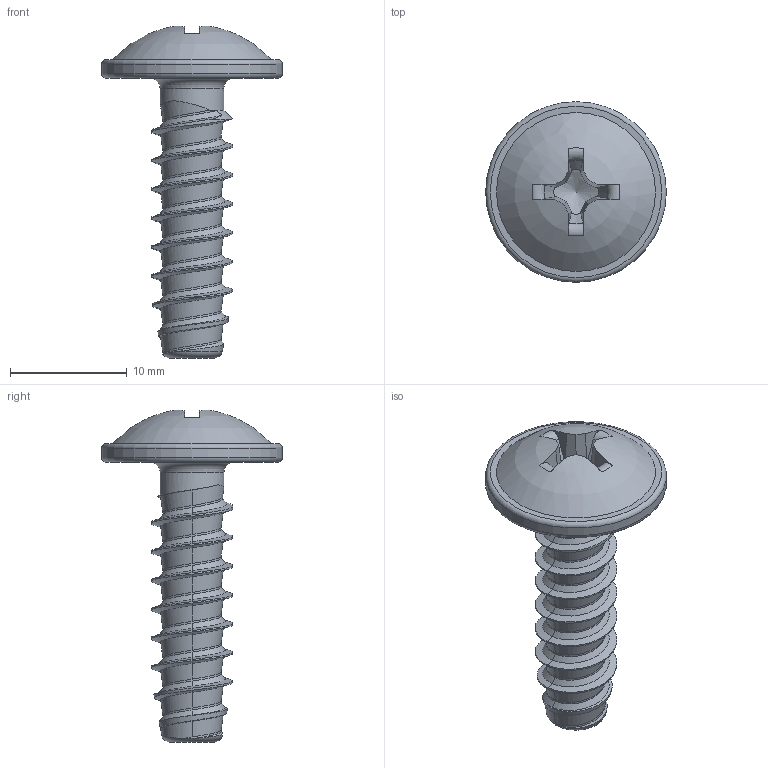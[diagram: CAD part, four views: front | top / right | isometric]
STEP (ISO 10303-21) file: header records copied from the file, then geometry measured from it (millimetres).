
FILE_DESCRIPTION(/* description */ (''),/* implementation_level */ '2;1');
FILE_NAME(/* name */ 'KN6031-STSplus-70x24-H3.step',/* time_stamp */ '2017-09-29T13:26:23+02:00',/* author */ (''),/* organization */ (''),/* preprocessor_version */ 'ST-DEVELOPER v16',/* originating_system */ 'SIEMENS PLM Software NX 10.0',/* authorisation */ '');
FILE_SCHEMA (('AUTOMOTIVE_DESIGN { 1 0 10303 214 3 1 1 1 }'));
Length unit declared in the file: millimetre
Products named in the file (1): KN6031-STSplus-70x24-H3
Bounding box: 15.5 x 15.5 x 28.48 mm (x, y, z)
Volume: 1060.2 mm3; surface area: 1077.3 mm2
Topology: 1 solids, 1 shells, 86 faces, 213 edges, 130 vertices
Faces by surface type: bspline 48, plane 19, torus 8, cone 7, cylinder 3, sphere 1
Full cylindrical faces by diameter (mm): 5.48 x1, 15.5 x1
Entity records: 5399 total; most frequent: CARTESIAN_POINT 3737, ORIENTED_EDGE 398, DIRECTION 214, EDGE_CURVE 199, VERTEX_POINT 125, B_SPLINE_CURVE_WITH_KNOTS 103, EDGE_LOOP 95, ADVANCED_FACE 86
